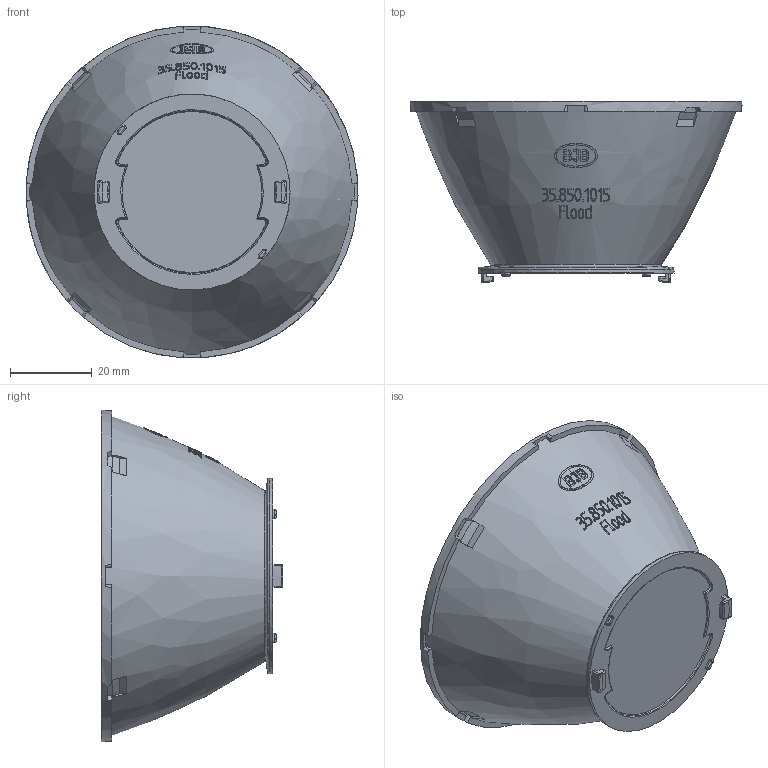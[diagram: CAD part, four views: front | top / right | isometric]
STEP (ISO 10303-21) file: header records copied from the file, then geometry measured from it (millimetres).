
FILE_DESCRIPTION(/* description */ ('Unknown'),/* implementation_level */ '2;1');
FILE_NAME(/* name */ '022-J0G-04',/* time_stamp */ '2024-06-07T14:59:39+02:00',/* author */ ('Unknown'),/* organization */ ('Unknown'),/* preprocessor_version */ 'ST-DEVELOPER v16.7',/* originating_system */ 'Solid Edge',/* authorisation */ 'Unknown');
FILE_SCHEMA (('AUTOMOTIVE_DESIGN {1 0 10303 214 3 1 1}'));
Length unit declared in the file: millimetre
Products named in the file (1): 022-J0G-04
Bounding box: 81.29 x 44.35 x 81.28 mm (x, y, z)
Volume: 132571.6 mm3; surface area: 16971.3 mm2
Topology: 1 solids, 1 shells, 342 faces, 919 edges, 609 vertices
Faces by surface type: plane 147, bspline 104, cylinder 57, cone 15, sphere 12, torus 7
Full cylindrical faces by diameter (mm): 48 x1, 81.3 x1
Entity records: 14428 total; most frequent: CARTESIAN_POINT 6849, ORIENTED_EDGE 1786, DIRECTION 1216, EDGE_CURVE 893, VERTEX_POINT 604, AXIS2_PLACEMENT_3D 486, EDGE_LOOP 393, FACE_BOUND 393
